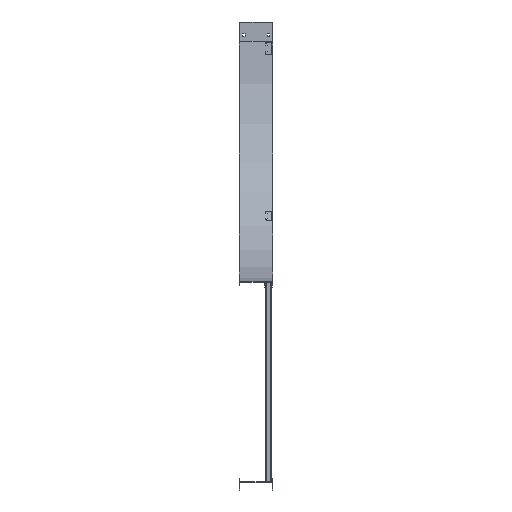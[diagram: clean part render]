
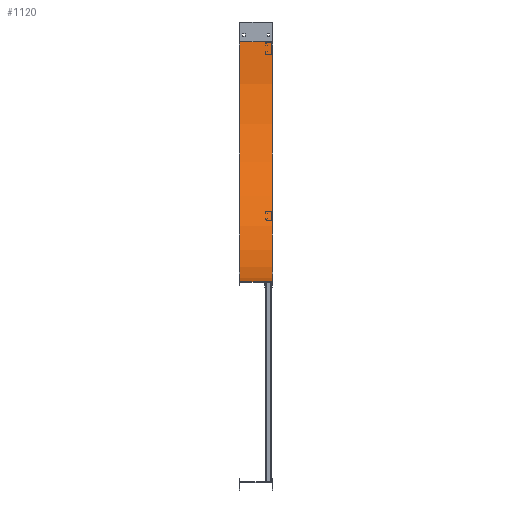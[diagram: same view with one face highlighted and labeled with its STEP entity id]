
A CAD part, left-side view. The second image highlights one B-rep face of the part: STEP entity #1120.
In plain terms, the highlighted cylindrical face has radius 914.4 mm (diameter 1828.8 mm), a partial arc.
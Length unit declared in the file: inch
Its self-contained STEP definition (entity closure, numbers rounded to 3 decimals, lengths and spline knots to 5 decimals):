
#157=CARTESIAN_POINT('',(4.995,-36.,3.));
#158=DIRECTION('',(1.,0.,0.));
#159=DIRECTION('',(0.,1.,0.));
#160=AXIS2_PLACEMENT_3D('',#157,#158,#159);
#350=DIRECTION('',(1.,0.,0.));
#351=VECTOR('',#350,4.91);
#352=CARTESIAN_POINT('',(0.085,-36.,39.));
#353=LINE('',#352,#351);
#390=DIRECTION('',(1.,0.,0.));
#391=VECTOR('',#390,4.91);
#392=CARTESIAN_POINT('',(0.085,0.,3.));
#393=LINE('',#392,#391);
#394=CARTESIAN_POINT('',(0.085,-36.,3.));
#395=DIRECTION('',(1.,0.,0.));
#396=DIRECTION('',(0.,1.,0.));
#397=AXIS2_PLACEMENT_3D('',#394,#395,#396);
#521=CARTESIAN_POINT('',(0.085,0.,3.));
#522=CARTESIAN_POINT('',(4.995,0.,3.));
#523=VERTEX_POINT('',#521);
#524=VERTEX_POINT('',#522);
#545=CARTESIAN_POINT('',(0.085,-36.,39.));
#546=CARTESIAN_POINT('',(4.995,-36.,39.));
#547=VERTEX_POINT('',#545);
#548=VERTEX_POINT('',#546);
#1109=CARTESIAN_POINT('',(-1.,-36.,3.));
#1110=DIRECTION('',(1.,0.,0.));
#1111=DIRECTION('',(0.,-1.,0.));
#1112=AXIS2_PLACEMENT_3D('',#1109,#1110,#1111);
#1113=CYLINDRICAL_SURFACE('',#1112,36.);
#1114=ORIENTED_EDGE('',*,*,#894,.F.);
#1115=ORIENTED_EDGE('',*,*,#935,.T.);
#1116=ORIENTED_EDGE('',*,*,#1082,.T.);
#1117=ORIENTED_EDGE('',*,*,#872,.F.);
#1118=EDGE_LOOP('',(#1114,#1115,#1116,#1117));
#1119=FACE_OUTER_BOUND('',#1118,.F.);
#1120=ADVANCED_FACE('',(#1119),#1113,.F.);
#161=CIRCLE('',#160,36.);
#398=CIRCLE('',#397,36.);
#872=EDGE_CURVE('',#524,#548,#161,.T.);
#894=EDGE_CURVE('',#523,#524,#393,.T.);
#935=EDGE_CURVE('',#523,#547,#398,.T.);
#1082=EDGE_CURVE('',#547,#548,#353,.T.);
